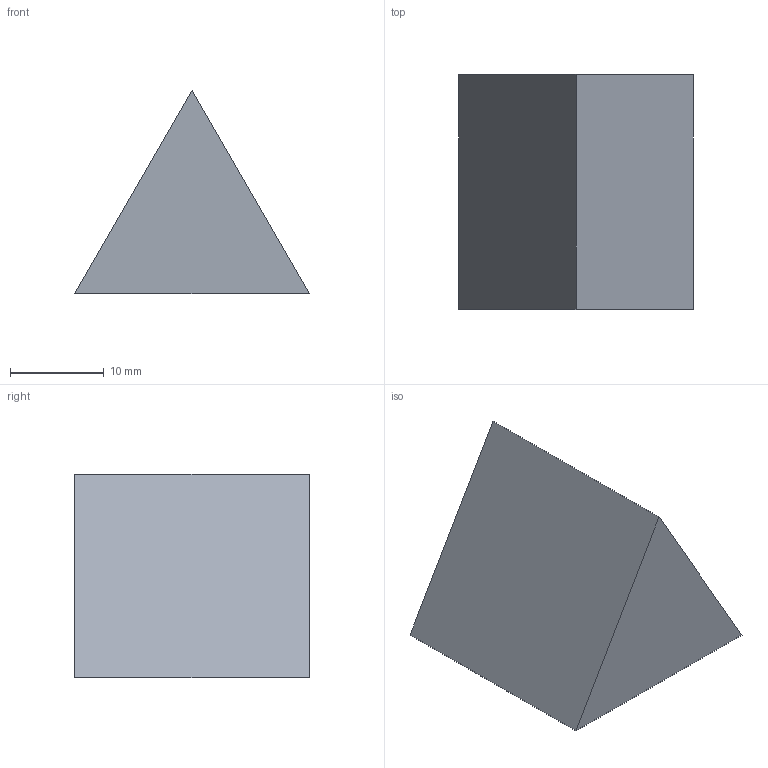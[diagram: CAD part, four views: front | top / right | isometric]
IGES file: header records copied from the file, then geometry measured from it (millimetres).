
Global section: file name: No Iges File Name specified; native system: AutoDesk Inventor R12.0; preprocessor: AutoDesk Inventor Iges Exporter R12.0; date: 20090527.141004; units: millimetre
Bounding box: 25 x 25 x 21.65 mm (x, y, z)
Volume: 6765.8 mm3; surface area: 2416.3 mm2
Topology: 1 solids, 1 shells, 5 faces, 9 edges, 6 vertices
Faces by surface type: plane 5
